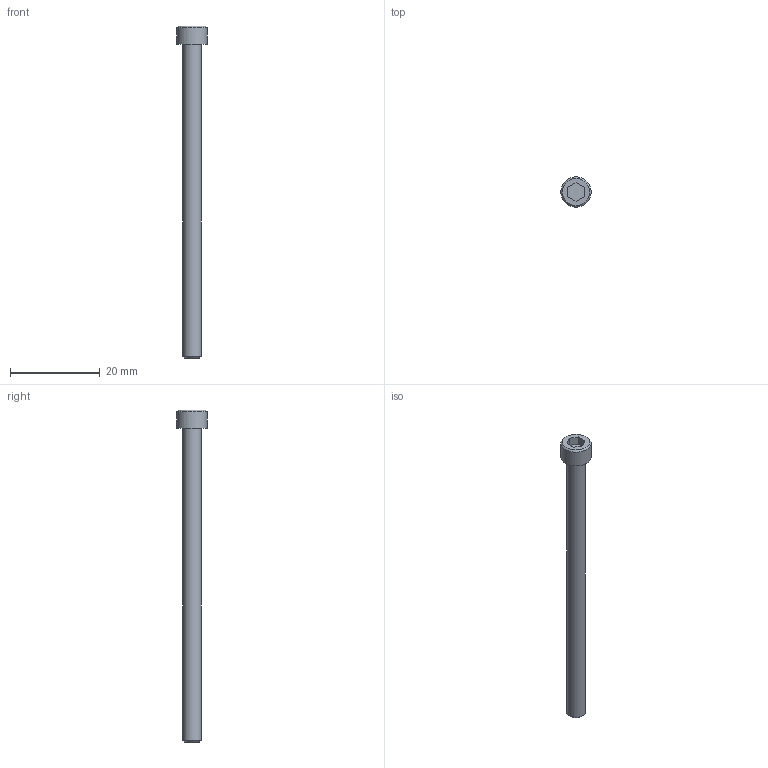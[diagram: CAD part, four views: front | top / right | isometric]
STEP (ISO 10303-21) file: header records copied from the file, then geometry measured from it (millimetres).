
FILE_DESCRIPTION((''),'2;1');
FILE_NAME('C:\Users\Stan\Desktop\import\SHCS 8-32 UNCx2.75.ipt.step','2011-08-18T17:45:40',(''),(''),'Autodesk Inventor 2012','Autodesk Inventor 2012','');
FILE_SCHEMA(('AUTOMOTIVE_DESIGN { 1 0 10303 214 1 1 1 1 }'));
Length unit declared in the file: inch
Products named in the file (1): SHCS 8-32 UNCx2.75
Bounding box: 6.76 x 6.76 x 73.96 mm (x, y, z)
Volume: 1075.7 mm3; surface area: 1089.9 mm2
Topology: 1 solids, 1 shells, 14 faces, 28 edges, 18 vertices
Faces by surface type: plane 10, cone 2, cylinder 2
Full cylindrical faces by diameter (mm): 4.166 x1, 6.756 x1
Entity records: 391 total; most frequent: DIRECTION 60, CARTESIAN_POINT 57, ORIENTED_EDGE 48, EDGE_CURVE 24, AXIS2_PLACEMENT_3D 21, EDGE_LOOP 20, VERTEX_POINT 18, VECTOR 18
